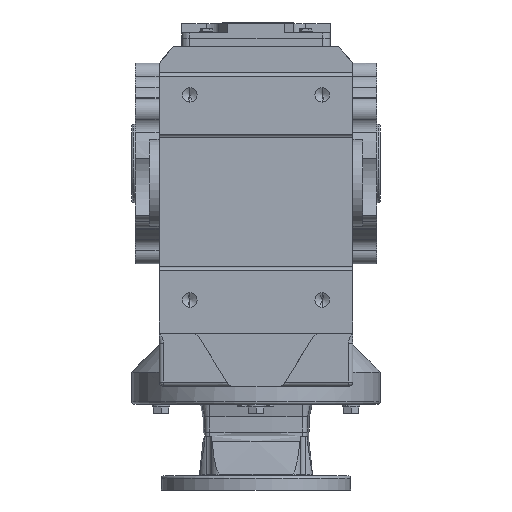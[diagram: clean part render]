
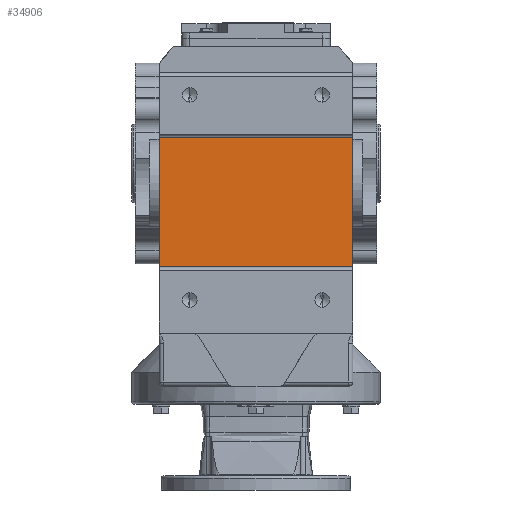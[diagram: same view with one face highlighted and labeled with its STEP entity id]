
A CAD part, front view. The second image highlights one B-rep face of the part: STEP entity #34906.
In plain terms, the highlighted planar face has unit normal (0, -1, 0).
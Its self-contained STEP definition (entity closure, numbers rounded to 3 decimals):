
#3314 = AXIS2_PLACEMENT_3D ( 'NONE', #54542, #54548, #54549 ) ;
#5427 = LINE ( 'NONE', #53447, #5429 ) ;
#5428 = LINE ( 'NONE', #53456, #5436 ) ;
#5429 = VECTOR ( 'NONE', #53441, 1000. ) ;
#5430 = LINE ( 'NONE', #53454, #5432 ) ;
#5431 = LINE ( 'NONE', #53460, #5434 ) ;
#5432 = VECTOR ( 'NONE', #53450, 1000. ) ;
#5434 = VECTOR ( 'NONE', #53462, 1000. ) ;
#5436 = VECTOR ( 'NONE', #53463, 1000. ) ;
#14079 = VERTEX_POINT ( 'NONE', #20746 ) ;
#14112 = VERTEX_POINT ( 'NONE', #20770 ) ;
#14119 = VERTEX_POINT ( 'NONE', #20775 ) ;
#14151 = VERTEX_POINT ( 'NONE', #20802 ) ;
#14324 = FACE_OUTER_BOUND ( 'NONE', #51735, .T. ) ;
#18113 = EDGE_CURVE ( 'NONE', #14112, #14079, #5427, .T. ) ;
#18115 = EDGE_CURVE ( 'NONE', #14151, #14112, #5430, .T. ) ;
#18116 = EDGE_CURVE ( 'NONE', #14151, #14119, #5431, .T. ) ;
#18117 = EDGE_CURVE ( 'NONE', #14119, #14079, #5428, .T. ) ;
#19470 = ORIENTED_EDGE ( 'NONE', *, *, #18115, .F. ) ;
#19656 = ORIENTED_EDGE ( 'NONE', *, *, #18117, .T. ) ;
#19755 = ORIENTED_EDGE ( 'NONE', *, *, #18116, .T. ) ;
#20231 = ORIENTED_EDGE ( 'NONE', *, *, #18113, .F. ) ;
#20746 = CARTESIAN_POINT ( 'NONE',  ( 117., -260., 31. ) ) ;
#20770 = CARTESIAN_POINT ( 'NONE',  ( -117., -260., 31. ) ) ;
#20775 = CARTESIAN_POINT ( 'NONE',  ( 117., -260., -125. ) ) ;
#20802 = CARTESIAN_POINT ( 'NONE',  ( -117., -260., -125. ) ) ;
#34906 = ADVANCED_FACE ( 'NONE', ( #14324 ), #54546, .T. ) ;
#51735 = EDGE_LOOP ( 'NONE', ( #20231, #19470, #19755, #19656 ) ) ;
#53441 = DIRECTION ( 'NONE',  ( 1., 0., 0. ) ) ;
#53447 = CARTESIAN_POINT ( 'NONE',  ( -145., -260., 31. ) ) ;
#53450 = DIRECTION ( 'NONE',  ( 0., 0., 1. ) ) ;
#53454 = CARTESIAN_POINT ( 'NONE',  ( -117., -260., 31. ) ) ;
#53456 = CARTESIAN_POINT ( 'NONE',  ( 117., -260., 31. ) ) ;
#53460 = CARTESIAN_POINT ( 'NONE',  ( -145., -260., -125. ) ) ;
#53462 = DIRECTION ( 'NONE',  ( 1., 0., 0. ) ) ;
#53463 = DIRECTION ( 'NONE',  ( 0., 0., 1. ) ) ;
#54542 = CARTESIAN_POINT ( 'NONE',  ( -145., -260., 31. ) ) ;
#54546 = PLANE ( 'NONE',  #3314 ) ;
#54548 = DIRECTION ( 'NONE',  ( 0., -1., 0. ) ) ;
#54549 = DIRECTION ( 'NONE',  ( 0., 0., -1. ) ) ;
